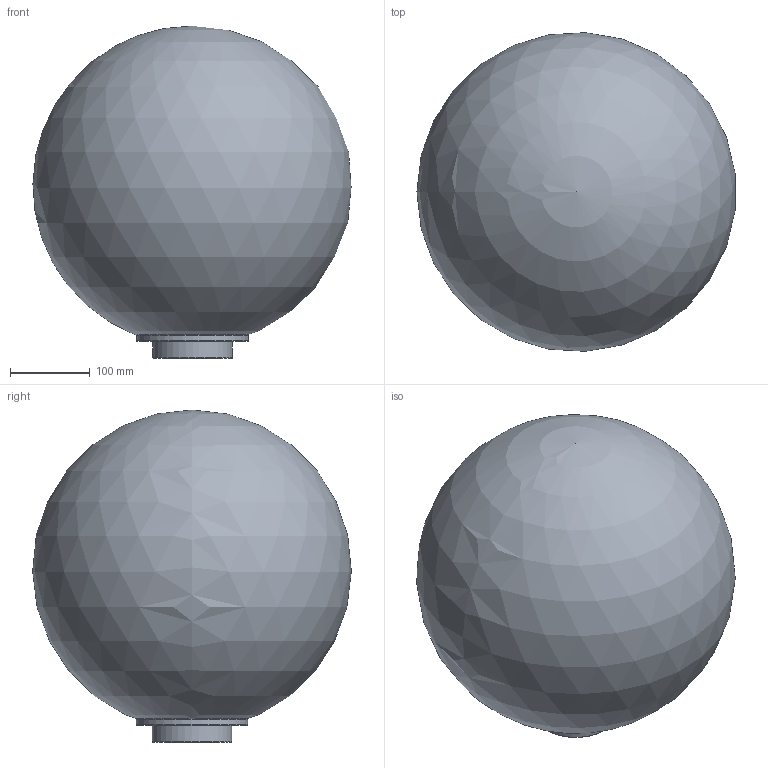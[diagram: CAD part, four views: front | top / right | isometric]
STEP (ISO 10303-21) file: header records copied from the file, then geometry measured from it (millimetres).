
FILE_DESCRIPTION(/* description */ (''),/* implementation_level */ '2;1');
FILE_NAME(/* name */ 'C:/Users/LukasGröber/GMS Cloud/Groeber Mannheim Lichtwerke - Dokumente/Marketing/Produkte/3D Daten/Snowball Stationär/Snowball 40 Stationär.step',/* time_stamp */ '2022-07-07T08:18:17+02:00',/* author */ (''),/* organization */ (''),/* preprocessor_version */ 'ST-DEVELOPER v19',/* originating_system */ 'Autodesk Translation Framework v11.7.0.108',/* authorisation */ '');
FILE_SCHEMA (('AUTOMOTIVE_DESIGN { 1 0 10303 214 3 1 1 }'));
Length unit declared in the file: millimetre
Products named in the file (3): Snowball 40 Stationär; Ring Stationär 30-60 (Modell); Snowball 400 Öffnung 80
Assembly tree (2 placements, depth 2):
  Snowball 40 Stationär
    Ring Stationär 30-60 (Modell)
    Snowball 400 Öffnung 80
Bounding box: 398.61 x 399.29 x 415.96 mm (x, y, z)
Volume: 2485318.2 mm3; surface area: 1004958.3 mm2
Topology: 2 solids, 2 shells, 15 faces, 31 edges, 19 vertices
Faces by surface type: cylinder 4, cone 3, plane 3, torus 3, sphere 2
Full cylindrical faces by diameter (mm): 80 x1, 94 x1, 100 x1, 140 x1
Entity records: 500 total; most frequent: DIRECTION 91, CARTESIAN_POINT 68, ORIENTED_EDGE 58, AXIS2_PLACEMENT_3D 42, EDGE_CURVE 29, CIRCLE 22, VERTEX_POINT 19, EDGE_LOOP 18
